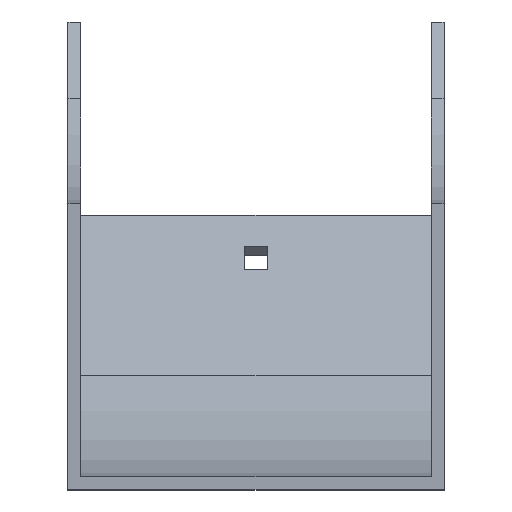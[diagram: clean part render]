
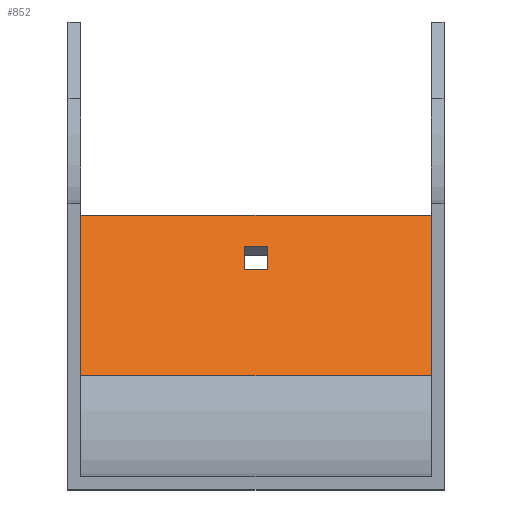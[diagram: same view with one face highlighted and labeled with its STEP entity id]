
A CAD part, top view. The second image highlights one B-rep face of the part: STEP entity #852.
In plain terms, the highlighted planar face has unit normal (0, 0.707, 0.707).
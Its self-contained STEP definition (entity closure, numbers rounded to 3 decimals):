
#1 = CARTESIAN_POINT ( 'NONE',  ( -3.25, -11.369, -166.825 ) ) ;
#5 = DIRECTION ( 'NONE',  ( -1., 0., 0. ) ) ;
#11 = CARTESIAN_POINT ( 'NONE',  ( 52., -2.884, -175.31 ) ) ;
#81 = DIRECTION ( 'NONE',  ( 0., 0.707, -0.707 ) ) ;
#141 = DIRECTION ( 'NONE',  ( 0., 0.707, -0.707 ) ) ;
#157 = CARTESIAN_POINT ( 'NONE',  ( 3.25, -17.733, -160.461 ) ) ;
#164 = CARTESIAN_POINT ( 'NONE',  ( 52., -2.884, -175.31 ) ) ;
#176 = VECTOR ( 'NONE', #1397, 1000. ) ;
#183 = EDGE_CURVE ( 'NONE', #813, #1057, #1769, .T. ) ;
#274 = ORIENTED_EDGE ( 'NONE', *, *, #1612, .T. ) ;
#291 = FACE_BOUND ( 'NONE', #481, .T. ) ;
#302 = PLANE ( 'NONE',  #1950 ) ;
#331 = LINE ( 'NONE', #157, #1934 ) ;
#345 = VECTOR ( 'NONE', #944, 1000. ) ;
#368 = ORIENTED_EDGE ( 'NONE', *, *, #183, .F. ) ;
#416 = VERTEX_POINT ( 'NONE', #888 ) ;
#424 = VECTOR ( 'NONE', #5, 1000. ) ;
#439 = EDGE_CURVE ( 'NONE', #1785, #1057, #1517, .T. ) ;
#455 = EDGE_CURVE ( 'NONE', #1292, #813, #1235, .T. ) ;
#464 = DIRECTION ( 'NONE',  ( 0., 0.707, 0.707 ) ) ;
#468 = LINE ( 'NONE', #1025, #424 ) ;
#481 = EDGE_LOOP ( 'NONE', ( #274, #1768, #1488, #1142 ) ) ;
#494 = CARTESIAN_POINT ( 'NONE',  ( -48.5, -2.884, -175.31 ) ) ;
#495 = CARTESIAN_POINT ( 'NONE',  ( 52., -47.236, -130.959 ) ) ;
#606 = DIRECTION ( 'NONE',  ( 0., -0.707, 0.707 ) ) ;
#638 = LINE ( 'NONE', #1879, #1803 ) ;
#690 = CARTESIAN_POINT ( 'NONE',  ( 3.25, -17.733, -160.461 ) ) ;
#791 = CARTESIAN_POINT ( 'NONE',  ( 3.25, -11.369, -166.825 ) ) ;
#794 = LINE ( 'NONE', #1253, #176 ) ;
#813 = VERTEX_POINT ( 'NONE', #1316 ) ;
#852 = ADVANCED_FACE ( 'NONE', ( #1666, #291 ), #302, .T. ) ;
#888 = CARTESIAN_POINT ( 'NONE',  ( -3.25, -17.733, -160.461 ) ) ;
#934 = VECTOR ( 'NONE', #141, 1000. ) ;
#944 = DIRECTION ( 'NONE',  ( -1., 0., 0. ) ) ;
#1025 = CARTESIAN_POINT ( 'NONE',  ( -3.25, -17.733, -160.461 ) ) ;
#1057 = VERTEX_POINT ( 'NONE', #494 ) ;
#1098 = EDGE_CURVE ( 'NONE', #1328, #1622, #794, .T. ) ;
#1114 = VECTOR ( 'NONE', #81, 1000. ) ;
#1130 = LINE ( 'NONE', #1433, #1114 ) ;
#1142 = ORIENTED_EDGE ( 'NONE', *, *, #1668, .T. ) ;
#1214 = ORIENTED_EDGE ( 'NONE', *, *, #455, .F. ) ;
#1235 = LINE ( 'NONE', #495, #345 ) ;
#1253 = CARTESIAN_POINT ( 'NONE',  ( -3.25, -11.369, -166.825 ) ) ;
#1292 = VERTEX_POINT ( 'NONE', #1788 ) ;
#1316 = CARTESIAN_POINT ( 'NONE',  ( -48.5, -47.236, -130.959 ) ) ;
#1328 = VERTEX_POINT ( 'NONE', #1 ) ;
#1368 = DIRECTION ( 'NONE',  ( -1., 0., 0. ) ) ;
#1397 = DIRECTION ( 'NONE',  ( 1., 0., 0. ) ) ;
#1402 = EDGE_CURVE ( 'NONE', #1292, #1785, #638, .T. ) ;
#1433 = CARTESIAN_POINT ( 'NONE',  ( -3.25, -17.733, -160.461 ) ) ;
#1446 = VERTEX_POINT ( 'NONE', #690 ) ;
#1488 = ORIENTED_EDGE ( 'NONE', *, *, #1098, .T. ) ;
#1497 = CARTESIAN_POINT ( 'NONE',  ( -48.5, -2.884, -175.31 ) ) ;
#1517 = LINE ( 'NONE', #164, #1923 ) ;
#1612 = EDGE_CURVE ( 'NONE', #1446, #416, #468, .T. ) ;
#1622 = VERTEX_POINT ( 'NONE', #791 ) ;
#1666 = FACE_OUTER_BOUND ( 'NONE', #1792, .T. ) ;
#1668 = EDGE_CURVE ( 'NONE', #1622, #1446, #331, .T. ) ;
#1704 = ORIENTED_EDGE ( 'NONE', *, *, #439, .T. ) ;
#1721 = CARTESIAN_POINT ( 'NONE',  ( 48.5, -2.884, -175.31 ) ) ;
#1768 = ORIENTED_EDGE ( 'NONE', *, *, #1833, .T. ) ;
#1769 = LINE ( 'NONE', #1497, #934 ) ;
#1785 = VERTEX_POINT ( 'NONE', #1721 ) ;
#1788 = CARTESIAN_POINT ( 'NONE',  ( 48.5, -47.236, -130.959 ) ) ;
#1792 = EDGE_LOOP ( 'NONE', ( #368, #1214, #1852, #1704 ) ) ;
#1803 = VECTOR ( 'NONE', #1869, 1000. ) ;
#1833 = EDGE_CURVE ( 'NONE', #416, #1328, #1130, .T. ) ;
#1839 = DIRECTION ( 'NONE',  ( 0., -0.707, 0.707 ) ) ;
#1852 = ORIENTED_EDGE ( 'NONE', *, *, #1402, .T. ) ;
#1869 = DIRECTION ( 'NONE',  ( 0., 0.707, -0.707 ) ) ;
#1879 = CARTESIAN_POINT ( 'NONE',  ( 48.5, -2.884, -175.31 ) ) ;
#1923 = VECTOR ( 'NONE', #1368, 1000. ) ;
#1934 = VECTOR ( 'NONE', #1839, 1000. ) ;
#1950 = AXIS2_PLACEMENT_3D ( 'NONE', #11, #464, #606 ) ;
